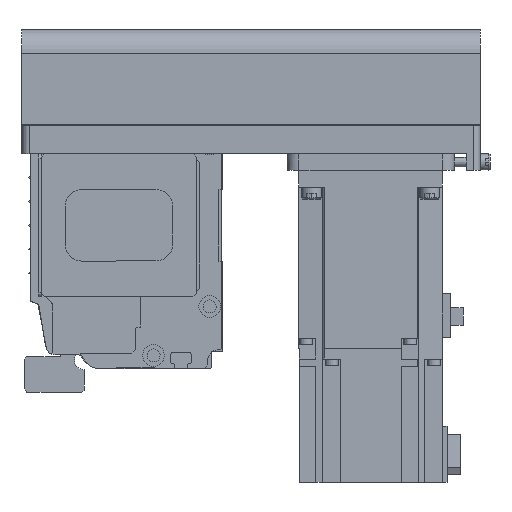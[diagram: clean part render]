
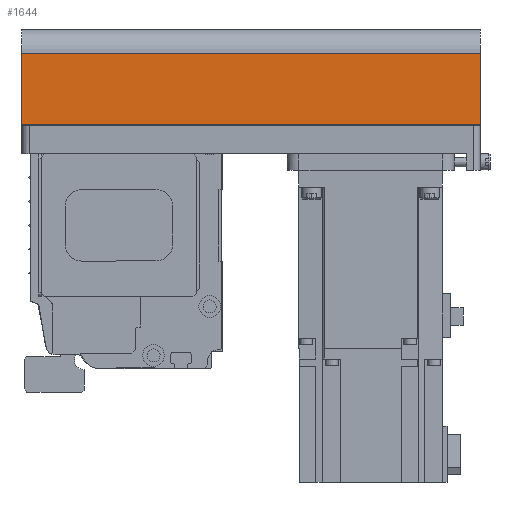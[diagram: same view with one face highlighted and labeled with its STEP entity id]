
A CAD part, left-side view. The second image highlights one B-rep face of the part: STEP entity #1644.
In plain terms, the highlighted planar face has unit normal (-1, 0, 0) as drawn and (0, -1, 0) by its records, which use the part's own axes.
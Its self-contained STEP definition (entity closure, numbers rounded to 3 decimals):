
#1644 = ADVANCED_FACE( '', ( #3682 ), #3683, .T. );
#3682 = FACE_OUTER_BOUND( '', #6146, .T. );
#3683 = PLANE( '', #6147 );
#6146 = EDGE_LOOP( '', ( #10658, #10659, #10660, #10661 ) );
#6147 = AXIS2_PLACEMENT_3D( '', #10662, #10663, #10664 );
#10658 = ORIENTED_EDGE( '', *, *, #15584, .F. );
#10659 = ORIENTED_EDGE( '', *, *, #15585, .F. );
#10660 = ORIENTED_EDGE( '', *, *, #14680, .T. );
#10661 = ORIENTED_EDGE( '', *, *, #15586, .T. );
#10662 = CARTESIAN_POINT( '', ( -192., -40., -12.1 ) );
#10663 = DIRECTION( '', ( 0., -1., 0. ) );
#10664 = DIRECTION( '', ( 0., 0., -1. ) );
#14680 = EDGE_CURVE( '', #17769, #17774, #17776, .T. );
#15584 = EDGE_CURVE( '', #19149, #19150, #19151, .T. );
#15585 = EDGE_CURVE( '', #17769, #19149, #19152, .T. );
#15586 = EDGE_CURVE( '', #17774, #19150, #19153, .T. );
#17769 = VERTEX_POINT( '', #21924 );
#17774 = VERTEX_POINT( '', #21931 );
#17776 = LINE( '', #21933, #21934 );
#19149 = VERTEX_POINT( '', #23789 );
#19150 = VERTEX_POINT( '', #23790 );
#19151 = LINE( '', #23791, #23792 );
#19152 = LINE( '', #23793, #23794 );
#19153 = LINE( '', #23795, #23796 );
#21924 = CARTESIAN_POINT( '', ( -192., -40., -12.1 ) );
#21931 = CARTESIAN_POINT( '', ( -192., -40., -42. ) );
#21933 = CARTESIAN_POINT( '', ( -192., -40., -12.1 ) );
#21934 = VECTOR( '', #26127, 1000. );
#23789 = CARTESIAN_POINT( '', ( 0., -40., -12.1 ) );
#23790 = CARTESIAN_POINT( '', ( 0., -40., -42. ) );
#23791 = CARTESIAN_POINT( '', ( 0., -40., -12.1 ) );
#23792 = VECTOR( '', #27243, 1000. );
#23793 = CARTESIAN_POINT( '', ( -192., -40., -12.1 ) );
#23794 = VECTOR( '', #27244, 1000. );
#23795 = CARTESIAN_POINT( '', ( -192., -40., -42. ) );
#23796 = VECTOR( '', #27245, 1000. );
#26127 = DIRECTION( '', ( 0., 0., -1. ) );
#27243 = DIRECTION( '', ( 0., 0., -1. ) );
#27244 = DIRECTION( '', ( 1., 0., 0. ) );
#27245 = DIRECTION( '', ( 1., 0., 0. ) );
